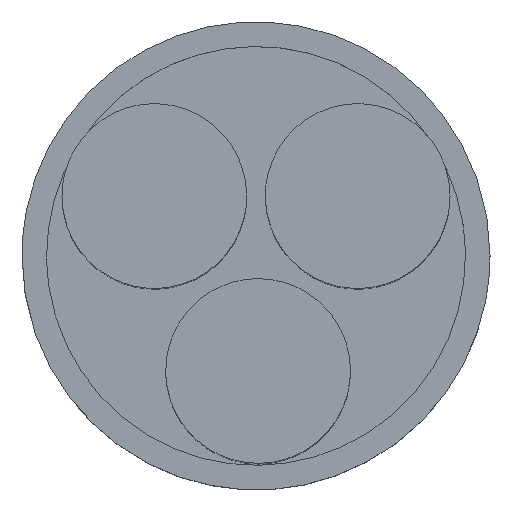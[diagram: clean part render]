
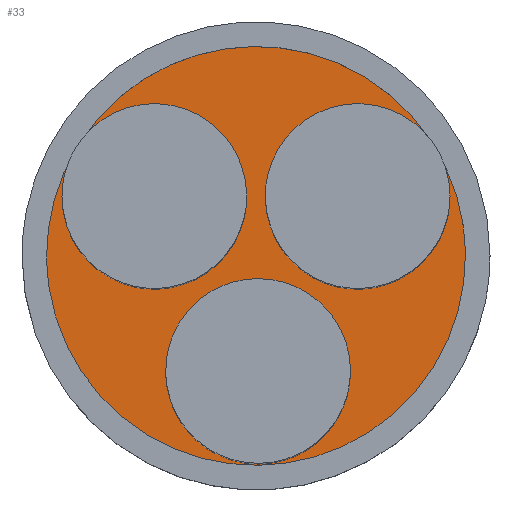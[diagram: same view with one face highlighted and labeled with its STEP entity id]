
A CAD part, top view. The second image highlights one B-rep face of the part: STEP entity #33.
In plain terms, the highlighted planar face has unit normal (0, 0, 1).
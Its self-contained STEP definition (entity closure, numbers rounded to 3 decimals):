
#33=ADVANCED_FACE('',(#56),#268,.T.);
#56=FACE_OUTER_BOUND('',#79,.T.);
#79=EDGE_LOOP('',(#114,#115));
#114=ORIENTED_EDGE('',*,*,#180,.F.);
#115=ORIENTED_EDGE('',*,*,#176,.F.);
#176=EDGE_CURVE('',#246,#248,#212,.T.);
#180=EDGE_CURVE('',#248,#246,#216,.T.);
#212=(
BOUNDED_CURVE()
B_SPLINE_CURVE(2,(#413,#414,#415,#416,#417),.UNSPECIFIED.,.F.,.F.)
B_SPLINE_CURVE_WITH_KNOTS((3,2,3),(0.,267.038,534.076),
 .UNSPECIFIED.)
CURVE()
GEOMETRIC_REPRESENTATION_ITEM()
RATIONAL_B_SPLINE_CURVE((1.,0.707,1.,0.707,1.))
REPRESENTATION_ITEM('')
);
#216=(
BOUNDED_CURVE()
B_SPLINE_CURVE(2,(#427,#428,#429,#430,#431),.UNSPECIFIED.,.F.,.F.)
B_SPLINE_CURVE_WITH_KNOTS((3,2,3),(534.076,801.114,1068.152),
 .UNSPECIFIED.)
CURVE()
GEOMETRIC_REPRESENTATION_ITEM()
RATIONAL_B_SPLINE_CURVE((1.,0.707,1.,0.707,1.))
REPRESENTATION_ITEM('')
);
#246=VERTEX_POINT('',#409);
#248=VERTEX_POINT('',#411);
#268=PLANE('',#311);
#311=AXIS2_PLACEMENT_3D('',#397,#325,$);
#325=DIRECTION('',(0.,0.,1.));
#397=CARTESIAN_POINT('',(12076.,-4544.24,-370.));
#409=CARTESIAN_POINT('',(12458.504,-4756.742,-370.));
#411=CARTESIAN_POINT('',(12118.5,-4756.742,-370.));
#413=CARTESIAN_POINT('',(12458.504,-4756.742,-370.));
#414=CARTESIAN_POINT('',(12458.504,-4926.744,-370.));
#415=CARTESIAN_POINT('',(12288.502,-4926.744,-370.));
#416=CARTESIAN_POINT('',(12118.5,-4926.744,-370.));
#417=CARTESIAN_POINT('',(12118.5,-4756.742,-370.));
#427=CARTESIAN_POINT('',(12118.5,-4756.742,-370.));
#428=CARTESIAN_POINT('',(12118.5,-4586.741,-370.));
#429=CARTESIAN_POINT('',(12288.502,-4586.741,-370.));
#430=CARTESIAN_POINT('',(12458.504,-4586.741,-370.));
#431=CARTESIAN_POINT('',(12458.504,-4756.742,-370.));
